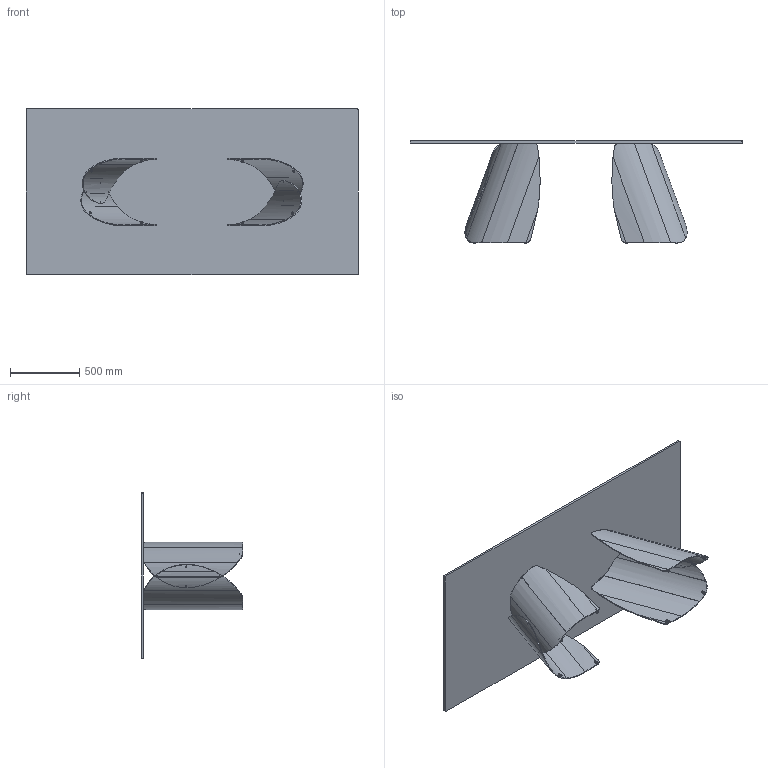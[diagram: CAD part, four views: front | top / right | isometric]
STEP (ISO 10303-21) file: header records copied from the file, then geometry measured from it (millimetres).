
FILE_DESCRIPTION (( 'STEP AP203' ), '1' );
FILE_NAME ('PA23G_Perla 240x120_Glass Rectangular.STEP', '2024-07-31T12:40:51', ( '' ), ( '' ), 'SwSTEP 2.0', 'SolidWorks 2022', '' );
FILE_SCHEMA (( 'CONFIG_CONTROL_DESIGN' ));
Length unit declared in the file: millimetre
Products named in the file (9): PER000000_02-00-PERLA LAMIERA INTERNA; PER000000_03-00-PERLA BUSSOLA PER PIEDE; COLLO BASE PERLA PER000000 CON FERRAMENTA; C2XCRXX-00-Piani Rettangolari Cristallo_23 2400x1200; PA23G_Perla 240x120_Glass Rectangular; PER000000-00-PERLA BASE GREZZA; PER000000_01-00-PERLA LAMIERA ESTERNA; profilo U 9x7 bombato_L = 60mm; PIEDINO D.15 x H.8_filetto M6x11
Assembly tree (16 placements, depth 4):
  PA23G_Perla 240x120_Glass Rectangular
    COLLO BASE PERLA PER000000 CON FERRAMENTA  x2
      PER000000-00-PERLA BASE GREZZA
        PER000000_01-00-PERLA LAMIERA ESTERNA
        PER000000_02-00-PERLA LAMIERA INTERNA
        PER000000_03-00-PERLA BUSSOLA PER PIEDE  x4
      PIEDINO D.15 x H.8_filetto M6x11
      profilo U 9x7 bombato_L = 60mm
    C2XCRXX-00-Piani Rettangolari Cristallo_23 2400x1200
Bounding box: 2400 x 736.5 x 1200 mm (x, y, z)
Volume: 53178622.8 mm3; surface area: 9265577.9 mm2
Topology: 33 solids, 33 shells, 476 faces, 1054 edges, 644 vertices
Faces by surface type: cylinder 160, bspline 130, plane 106, cone 48, torus 32
Entity records: 12246 total; most frequent: CARTESIAN_POINT 8171, ORIENTED_EDGE 702, DIRECTION 438, EDGE_CURVE 351, VERTEX_POINT 217, AXIS2_PLACEMENT_3D 162, EDGE_LOOP 160, B_SPLINE_CURVE_WITH_KNOTS 153
